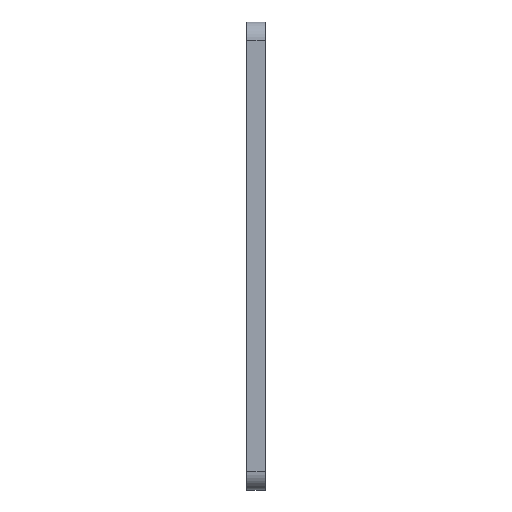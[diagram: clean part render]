
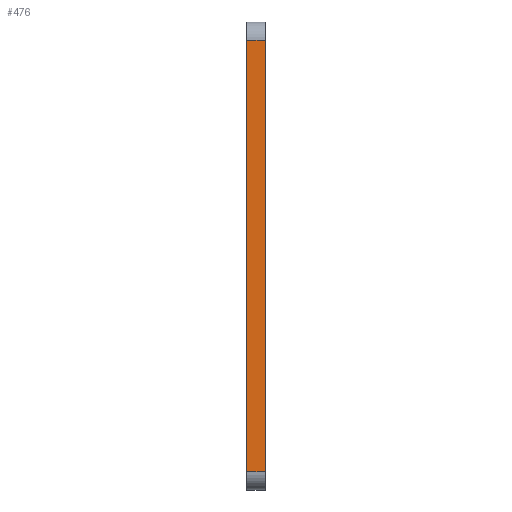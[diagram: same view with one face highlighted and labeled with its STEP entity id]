
A CAD part, left-side view. The second image highlights one B-rep face of the part: STEP entity #476.
In plain terms, the highlighted planar face has unit normal (-1, 0, 0).
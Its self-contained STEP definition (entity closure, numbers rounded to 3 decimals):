
#1 = ORIENTED_EDGE ( 'NONE', *, *, #700, .F. ) ;
#24 = CARTESIAN_POINT ( 'NONE',  ( -38., 3., -15. ) ) ;
#50 = CARTESIAN_POINT ( 'NONE',  ( -38., 0., -15. ) ) ;
#66 = DIRECTION ( 'NONE',  ( 0., 0., 1. ) ) ;
#78 = LINE ( 'NONE', #192, #656 ) ;
#84 = DIRECTION ( 'NONE',  ( -1., 0., 0. ) ) ;
#127 = EDGE_CURVE ( 'NONE', #385, #581, #315, .T. ) ;
#131 = CARTESIAN_POINT ( 'NONE',  ( -38., 0., 55. ) ) ;
#147 = PLANE ( 'NONE',  #642 ) ;
#148 = CARTESIAN_POINT ( 'NONE',  ( -38., 0., 55. ) ) ;
#158 = CARTESIAN_POINT ( 'NONE',  ( -38., 0., -15. ) ) ;
#168 = VERTEX_POINT ( 'NONE', #158 ) ;
#185 = DIRECTION ( 'NONE',  ( 0., 0., 1. ) ) ;
#192 = CARTESIAN_POINT ( 'NONE',  ( -38., 3., -18. ) ) ;
#209 = ORIENTED_EDGE ( 'NONE', *, *, #127, .T. ) ;
#211 = DIRECTION ( 'NONE',  ( 0., 0., 1. ) ) ;
#256 = CARTESIAN_POINT ( 'NONE',  ( -38., 3., 55. ) ) ;
#288 = VECTOR ( 'NONE', #770, 1000. ) ;
#296 = EDGE_CURVE ( 'NONE', #168, #385, #681, .T. ) ;
#302 = FACE_OUTER_BOUND ( 'NONE', #626, .T. ) ;
#315 = LINE ( 'NONE', #148, #288 ) ;
#325 = CARTESIAN_POINT ( 'NONE',  ( -38., 0., -18. ) ) ;
#343 = CARTESIAN_POINT ( 'NONE',  ( -38., 0., -18. ) ) ;
#357 = LINE ( 'NONE', #50, #395 ) ;
#385 = VERTEX_POINT ( 'NONE', #131 ) ;
#395 = VECTOR ( 'NONE', #576, 1000. ) ;
#471 = ORIENTED_EDGE ( 'NONE', *, *, #859, .T. ) ;
#476 = ADVANCED_FACE ( 'NONE', ( #302 ), #147, .T. ) ;
#516 = VERTEX_POINT ( 'NONE', #24 ) ;
#576 = DIRECTION ( 'NONE',  ( 0., -1., 0. ) ) ;
#581 = VERTEX_POINT ( 'NONE', #256 ) ;
#587 = VECTOR ( 'NONE', #185, 1000. ) ;
#626 = EDGE_LOOP ( 'NONE', ( #811, #209, #1, #471 ) ) ;
#642 = AXIS2_PLACEMENT_3D ( 'NONE', #343, #84, #211 ) ;
#656 = VECTOR ( 'NONE', #66, 1000. ) ;
#681 = LINE ( 'NONE', #325, #587 ) ;
#700 = EDGE_CURVE ( 'NONE', #516, #581, #78, .T. ) ;
#770 = DIRECTION ( 'NONE',  ( 0., 1., 0. ) ) ;
#811 = ORIENTED_EDGE ( 'NONE', *, *, #296, .T. ) ;
#859 = EDGE_CURVE ( 'NONE', #516, #168, #357, .T. ) ;
